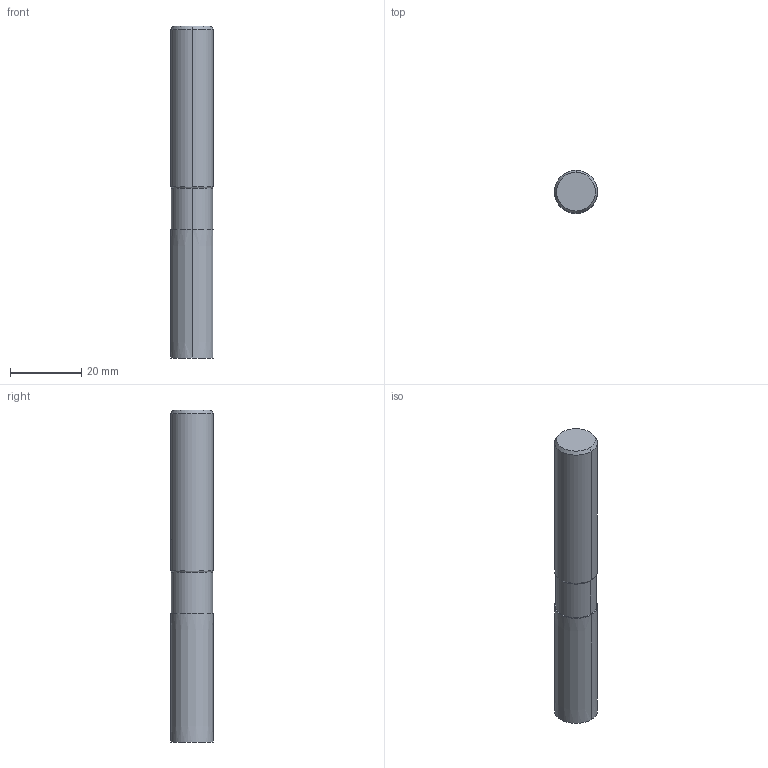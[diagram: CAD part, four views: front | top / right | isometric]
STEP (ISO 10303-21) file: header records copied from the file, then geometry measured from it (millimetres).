
FILE_DESCRIPTION(('no description'),'unknown implementation level');
FILE_NAME('solid29BVTxrHmtd98DtQ_ZeG6TW3Gyg_1.STP',' ',('CIMSOURCE GmbH'),('CADClick - KiM GmbH - www.kimweb.de'),'unknown preprocess','ACIS','unknown authorization');
FILE_SCHEMA(('automotive_design'));
Length unit declared in the file: millimetre
Products named in the file (2): NOCUT; CUT
Bounding box: 12 x 12 x 93 mm (x, y, z)
Volume: 10397.9 mm3; surface area: 5291.4 mm2
Topology: 2 solids, 2 shells, 41 faces, 93 edges, 58 vertices
Faces by surface type: cylinder 16, cone 14, plane 11
Entity records: 2552 total; most frequent: CARTESIAN_POINT 478, DIRECTION 211, STYLED_ITEM 194, PRESENTATION_STYLE_ASSIGNMENT 194, COLOUR_RGB 194, ORIENTED_EDGE 186, EDGE_CURVE 93, CURVE_STYLE 93
